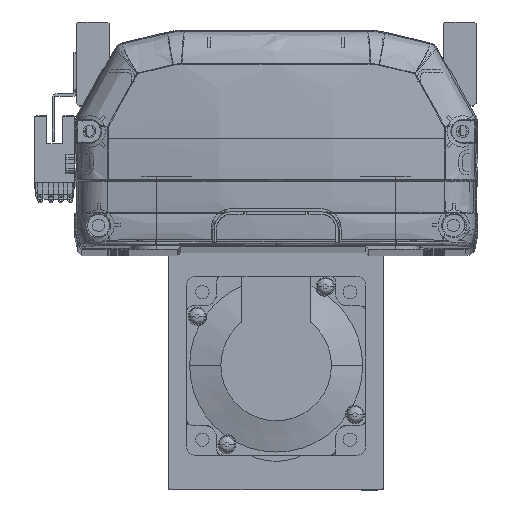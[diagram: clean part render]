
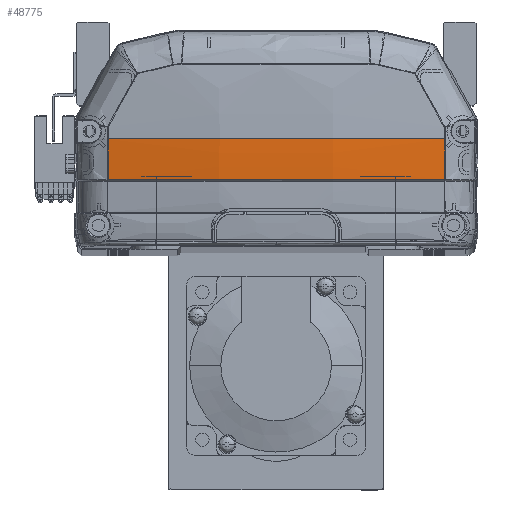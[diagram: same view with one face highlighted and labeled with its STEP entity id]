
A CAD part, top view. The second image highlights one B-rep face of the part: STEP entity #48775.
In plain terms, the highlighted free-form (B-spline) face has degree [3, 3] with [4, 4] control points.
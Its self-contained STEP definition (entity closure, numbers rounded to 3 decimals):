
#1185 = ORIENTED_EDGE ( 'NONE', *, *, #37851, .F. ) ;
#2626 = CARTESIAN_POINT ( 'NONE',  ( -19.28, 22.225, -9.565 ) ) ;
#2860 = CARTESIAN_POINT ( 'NONE',  ( -19.295, 36., -11.535 ) ) ;
#2871 = CARTESIAN_POINT ( 'NONE',  ( -56.647, 36., -5.158 ) ) ;
#4136 = ORIENTED_EDGE ( 'NONE', *, *, #24461, .F. ) ;
#5336 = CARTESIAN_POINT ( 'NONE',  ( 56.647, 35.969, -5.158 ) ) ;
#6988 = CARTESIAN_POINT ( 'NONE',  ( 47.432, 22.225, -6.377 ) ) ;
#8313 = EDGE_CURVE ( 'NONE', #9394, #44571, #52789, .T. ) ;
#8709 = CARTESIAN_POINT ( 'NONE',  ( 6452.613, 35.969, -5.158 ) ) ;
#9394 = VERTEX_POINT ( 'NONE', #17447 ) ;
#10783 = CARTESIAN_POINT ( 'NONE',  ( -19.295, 21.828, -11.186 ) ) ;
#11395 = CARTESIAN_POINT ( 'NONE',  ( 19.295, 26.549, -11.419 ) ) ;
#11784 = CARTESIAN_POINT ( 'NONE',  ( -57.335, 22.148, -4.7 ) ) ;
#14474 = B_SPLINE_CURVE_WITH_KNOTS ( 'NONE', 3,
 ( #54029, #26954, #19214, #5336 ),
 .UNSPECIFIED., .F., .F.,
 ( 4, 4 ),
 ( 0., 1. ),
 .UNSPECIFIED. ) ;
#15953 = CARTESIAN_POINT ( 'NONE',  ( 19.295, 31.274, -11.535 ) ) ;
#16889 = DIRECTION ( 'NONE',  ( 0., 0., -1. ) ) ;
#17447 = CARTESIAN_POINT ( 'NONE',  ( 56.647, 35.969, -5.158 ) ) ;
#18387 = DIRECTION ( 'NONE',  ( 0., 1., 0. ) ) ;
#18908 = CARTESIAN_POINT ( 'NONE',  ( -19.295, 26.549, -11.419 ) ) ;
#19214 = CARTESIAN_POINT ( 'NONE',  ( 56.647, 31.387, -5.158 ) ) ;
#20040 = CARTESIAN_POINT ( 'NONE',  ( -56.661, 22.225, -4.818 ) ) ;
#20491 = CARTESIAN_POINT ( 'NONE',  ( 57.335, 36., -5.042 ) ) ;
#20633 = CARTESIAN_POINT ( 'NONE',  ( 19.121, 22.225, -9.064 ) ) ;
#20797 = AXIS2_PLACEMENT_3D ( 'NONE', #8709, #16889, #49507 ) ;
#20831 = CARTESIAN_POINT ( 'NONE',  ( 11.954, 22.225, -9.367 ) ) ;
#20914 =( BOUNDED_SURFACE ( )  B_SPLINE_SURFACE ( 3, 3, ( 
 ( #56501, #25031, #33949, #20491 ),
 ( #38515, #11395, #15953, #56700 ),
 ( #10783, #18908, #51322, #2860 ),
 ( #11784, #39102, #43861, #34734 ) ),
 .UNSPECIFIED., .F., .F., .F. ) 
 B_SPLINE_SURFACE_WITH_KNOTS ( ( 4, 4 ),
 ( 4, 4 ),
 ( 0., 1. ),
 ( 0., 1. ),
 .UNSPECIFIED. ) 
 GEOMETRIC_REPRESENTATION_ITEM ( )  RATIONAL_B_SPLINE_SURFACE ( (
 ( 1., 1., 1., 1.),
 ( 0.99, 0.99, 0.99, 0.99),
 ( 0.99, 0.99, 0.99, 0.99),
 ( 1., 1., 1., 1.) ) ) 
 REPRESENTATION_ITEM ( '' )  SURFACE ( )  );
#20949 = FACE_OUTER_BOUND ( 'NONE', #47801, .T. ) ;
#23247 = B_SPLINE_CURVE_WITH_KNOTS ( 'NONE', 3,
 ( #45545, #55017, #46123, #36646 ),
 .UNSPECIFIED., .F., .F.,
 ( 4, 4 ),
 ( 0., 1. ),
 .UNSPECIFIED. ) ;
#24461 = EDGE_CURVE ( 'NONE', #47607, #50069, #23247, .T. ) ;
#24995 = CARTESIAN_POINT ( 'NONE',  ( 56.661, 22.225, -4.818 ) ) ;
#25031 = CARTESIAN_POINT ( 'NONE',  ( 57.335, 26.762, -4.928 ) ) ;
#25196 = CARTESIAN_POINT ( 'NONE',  ( 4.761, 22.225, -9.537 ) ) ;
#26448 = EDGE_CURVE ( 'NONE', #30963, #50069, #36137, .T. ) ;
#26954 = CARTESIAN_POINT ( 'NONE',  ( 56.652, 26.806, -5.044 ) ) ;
#28084 = CARTESIAN_POINT ( 'NONE',  ( 56.661, 22.225, -4.818 ) ) ;
#29747 = CARTESIAN_POINT ( 'NONE',  ( 1.152, 22.225, -9.568 ) ) ;
#30248 = CARTESIAN_POINT ( 'NONE',  ( -56.661, 22.225, -4.818 ) ) ;
#30963 = VERTEX_POINT ( 'NONE', #28084 ) ;
#33949 = CARTESIAN_POINT ( 'NONE',  ( 57.335, 31.38, -5.042 ) ) ;
#34291 = CARTESIAN_POINT ( 'NONE',  ( -38.235, 22.225, -7.93 ) ) ;
#34734 = CARTESIAN_POINT ( 'NONE',  ( -57.335, 36., -5.042 ) ) ;
#36070 = ORIENTED_EDGE ( 'NONE', *, *, #8313, .F. ) ;
#36137 = B_SPLINE_CURVE_WITH_KNOTS ( 'NONE', 3,
 ( #24995, #6988, #43220, #38292, #20633, #20831, #52277, #25196, #56847, #29747, #2626, #34291, #20040 ),
 .UNSPECIFIED., .F., .F.,
 ( 4, 2, 2, 1, 2, 2, 4 ),
 ( 0., 0.25, 0.375, 0.438, 0.469, 0.5, 1. ),
 .UNSPECIFIED. ) ;
#36646 = CARTESIAN_POINT ( 'NONE',  ( -56.661, 22.225, -4.818 ) ) ;
#37365 = ORIENTED_EDGE ( 'NONE', *, *, #41287, .F. ) ;
#37851 = EDGE_CURVE ( 'NONE', #30963, #9394, #14474, .T. ) ;
#38292 = CARTESIAN_POINT ( 'NONE',  ( 23.877, 22.225, -8.763 ) ) ;
#38515 = CARTESIAN_POINT ( 'NONE',  ( 19.295, 21.828, -11.186 ) ) ;
#39102 = CARTESIAN_POINT ( 'NONE',  ( -57.335, 26.762, -4.928 ) ) ;
#41287 = EDGE_CURVE ( 'NONE', #44571, #47607, #41781, .T. ) ;
#41781 = CIRCLE ( 'NONE', #50471, 340.733 ) ;
#43220 = CARTESIAN_POINT ( 'NONE',  ( 38.071, 22.225, -7.566 ) ) ;
#43861 = CARTESIAN_POINT ( 'NONE',  ( -57.335, 31.38, -5.042 ) ) ;
#44571 = VERTEX_POINT ( 'NONE', #56300 ) ;
#45503 = CARTESIAN_POINT ( 'NONE',  ( 0., 36., 330.833 ) ) ;
#45545 = CARTESIAN_POINT ( 'NONE',  ( -56.647, 36., -5.158 ) ) ;
#46123 = CARTESIAN_POINT ( 'NONE',  ( -56.652, 26.814, -5.045 ) ) ;
#47607 = VERTEX_POINT ( 'NONE', #2871 ) ;
#47801 = EDGE_LOOP ( 'NONE', ( #37365, #36070, #1185, #47925, #4136 ) ) ;
#47925 = ORIENTED_EDGE ( 'NONE', *, *, #26448, .T. ) ;
#48775 = ADVANCED_FACE ( 'NONE', ( #20949 ), #20914, .T. ) ;
#49507 = DIRECTION ( 'NONE',  ( -1., 0., 0. ) ) ;
#50028 = DIRECTION ( 'NONE',  ( 0., 0., -1. ) ) ;
#50069 = VERTEX_POINT ( 'NONE', #30248 ) ;
#50471 = AXIS2_PLACEMENT_3D ( 'NONE', #45503, #18387, #50028 ) ;
#51322 = CARTESIAN_POINT ( 'NONE',  ( -19.295, 31.274, -11.535 ) ) ;
#52277 = CARTESIAN_POINT ( 'NONE',  ( 8.363, 22.225, -9.48 ) ) ;
#52789 = CIRCLE ( 'NONE', #20797, 6395.966 ) ;
#54029 = CARTESIAN_POINT ( 'NONE',  ( 56.661, 22.225, -4.818 ) ) ;
#55017 = CARTESIAN_POINT ( 'NONE',  ( -56.647, 31.405, -5.158 ) ) ;
#56300 = CARTESIAN_POINT ( 'NONE',  ( 56.647, 36., -5.158 ) ) ;
#56501 = CARTESIAN_POINT ( 'NONE',  ( 57.335, 22.148, -4.7 ) ) ;
#56700 = CARTESIAN_POINT ( 'NONE',  ( 19.295, 36., -11.535 ) ) ;
#56847 = CARTESIAN_POINT ( 'NONE',  ( 2.357, 22.225, -9.562 ) ) ;
